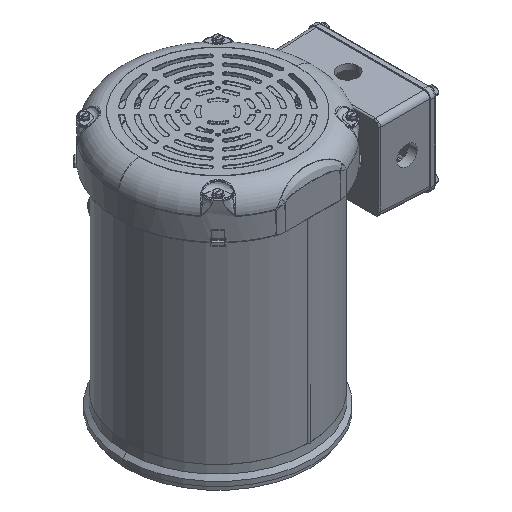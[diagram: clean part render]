
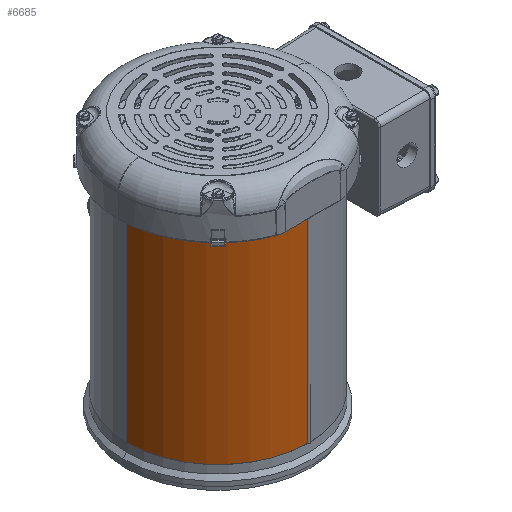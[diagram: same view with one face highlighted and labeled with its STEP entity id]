
A CAD part, isometric view. The second image highlights one B-rep face of the part: STEP entity #6685.
In plain terms, the highlighted cylindrical face has radius 106.617 mm (diameter 213.233 mm), a partial arc.
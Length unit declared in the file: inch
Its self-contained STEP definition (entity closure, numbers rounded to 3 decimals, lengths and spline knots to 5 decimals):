
#938 = FACE_OUTER_BOUND ( 'NONE', #86436, .T. ) ;
#2211 = DIRECTION ( 'NONE',  ( 0., 0., 1. ) ) ;
#2789 = ORIENTED_EDGE ( 'NONE', *, *, #105556, .T. ) ;
#6685 = ADVANCED_FACE ( 'NONE', ( #938 ), #68294, .T. ) ;
#6785 = CARTESIAN_POINT ( 'NONE',  ( -4.1975, 0., -3.6603 ) ) ;
#13164 = VECTOR ( 'NONE', #24783, 39.37008 ) ;
#14411 = VERTEX_POINT ( 'NONE', #72257 ) ;
#15226 = CARTESIAN_POINT ( 'NONE',  ( -4.1975, 0., 5.3397 ) ) ;
#15680 = ORIENTED_EDGE ( 'NONE', *, *, #43137, .F. ) ;
#16843 = DIRECTION ( 'NONE',  ( 0., 0., 1. ) ) ;
#18657 = CARTESIAN_POINT ( 'NONE',  ( 0., 0., -3.6603 ) ) ;
#19435 = DIRECTION ( 'NONE',  ( 1., 0., 0. ) ) ;
#20727 = VECTOR ( 'NONE', #16843, 39.37008 ) ;
#21567 = LINE ( 'NONE', #6785, #13164 ) ;
#21983 = CARTESIAN_POINT ( 'NONE',  ( -0.08406, -4.19666, -3.6603 ) ) ;
#22947 = VERTEX_POINT ( 'NONE', #15226 ) ;
#23538 = LINE ( 'NONE', #70581, #20727 ) ;
#24783 = DIRECTION ( 'NONE',  ( 0., 0., 1. ) ) ;
#34547 = AXIS2_PLACEMENT_3D ( 'NONE', #98710, #90082, #53899 ) ;
#35198 = ORIENTED_EDGE ( 'NONE', *, *, #42641, .F. ) ;
#42641 = EDGE_CURVE ( 'NONE', #22947, #14411, #97507, .T. ) ;
#43137 = EDGE_CURVE ( 'NONE', #68748, #22947, #21567, .T. ) ;
#45874 = DIRECTION ( 'NONE',  ( 1., 0., 0. ) ) ;
#53899 = DIRECTION ( 'NONE',  ( 1., 0., 0. ) ) ;
#63464 = VERTEX_POINT ( 'NONE', #21983 ) ;
#68294 = CYLINDRICAL_SURFACE ( 'NONE', #34547, 4.1975 ) ;
#68748 = VERTEX_POINT ( 'NONE', #100811 ) ;
#70581 = CARTESIAN_POINT ( 'NONE',  ( -0.08406, -4.19666, -3.6603 ) ) ;
#72257 = CARTESIAN_POINT ( 'NONE',  ( -0.08406, -4.19666, 5.3397 ) ) ;
#80937 = CARTESIAN_POINT ( 'NONE',  ( 0., 0., 5.3397 ) ) ;
#82513 = DIRECTION ( 'NONE',  ( 0., 0., 1. ) ) ;
#86436 = EDGE_LOOP ( 'NONE', ( #15680, #99625, #2789, #35198 ) ) ;
#90082 = DIRECTION ( 'NONE',  ( 0., 0., 1. ) ) ;
#96957 = AXIS2_PLACEMENT_3D ( 'NONE', #18657, #2211, #19435 ) ;
#97507 = CIRCLE ( 'NONE', #105089, 4.1975 ) ;
#98710 = CARTESIAN_POINT ( 'NONE',  ( 0., 0., -3.6603 ) ) ;
#99625 = ORIENTED_EDGE ( 'NONE', *, *, #105930, .T. ) ;
#100811 = CARTESIAN_POINT ( 'NONE',  ( -4.1975, 0., -3.6603 ) ) ;
#105089 = AXIS2_PLACEMENT_3D ( 'NONE', #80937, #82513, #45874 ) ;
#105556 = EDGE_CURVE ( 'NONE', #63464, #14411, #23538, .T. ) ;
#105930 = EDGE_CURVE ( 'NONE', #68748, #63464, #114794, .T. ) ;
#114794 = CIRCLE ( 'NONE', #96957, 4.1975 ) ;
